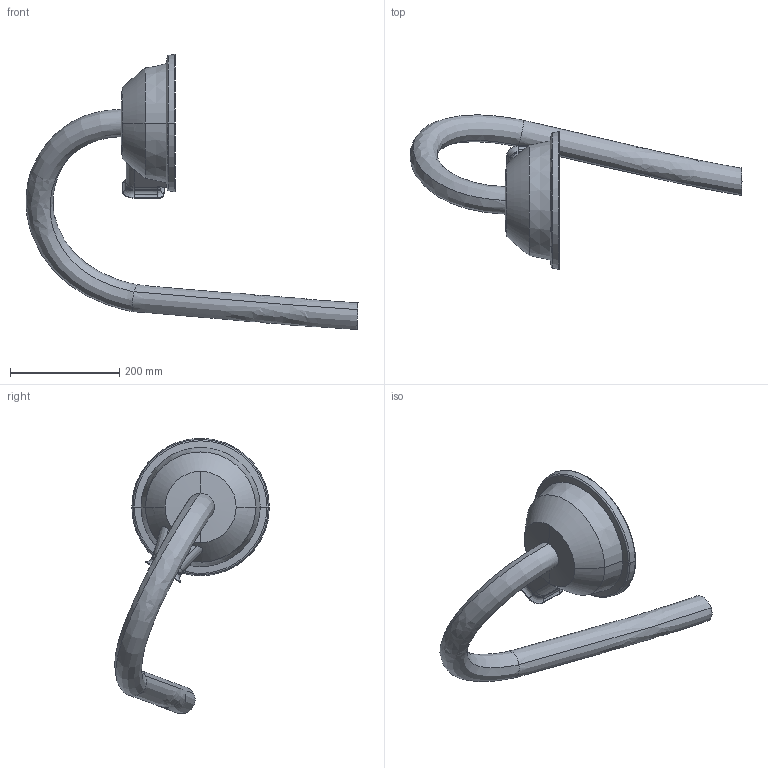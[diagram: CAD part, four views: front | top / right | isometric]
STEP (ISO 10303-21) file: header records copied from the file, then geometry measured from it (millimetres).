
FILE_DESCRIPTION (( 'STEP AP214' ), '1' );
FILE_NAME ('IRB5720-LID-SW_90kg-300_OC_02_LINK03b_CABLE.step', '2025-07-08T10:54:43', ( '' ), ( '' ), 'SwSTEP 2.0', 'SolidWorks 2024', '' );
FILE_SCHEMA (( 'AUTOMOTIVE_DESIGN' ));
Length unit declared in the file: millimetre
Products named in the file (1): IRB5720-LID-SW_90kg-300_OC_02_LINK03b_CABLE
Bounding box: 606.54 x 282.6 x 503.23 mm (x, y, z)
Volume: 5063683 mm3; surface area: 300086 mm2
Topology: 1 solids, 2 shells, 117 faces, 294 edges, 180 vertices
Faces by surface type: cylinder 32, bspline 23, torus 22, plane 19, cone 19, sphere 2
Entity records: 11948 total; most frequent: CARTESIAN_POINT 8045, ORIENTED_EDGE 592, DIRECTION 501, EDGE_CURVE 296, AXIS2_PLACEMENT_3D 214, VERTEX_POINT 181, UNCERTAINTY_MEASURE_WITH_UNIT 119, CIRCLE 119
